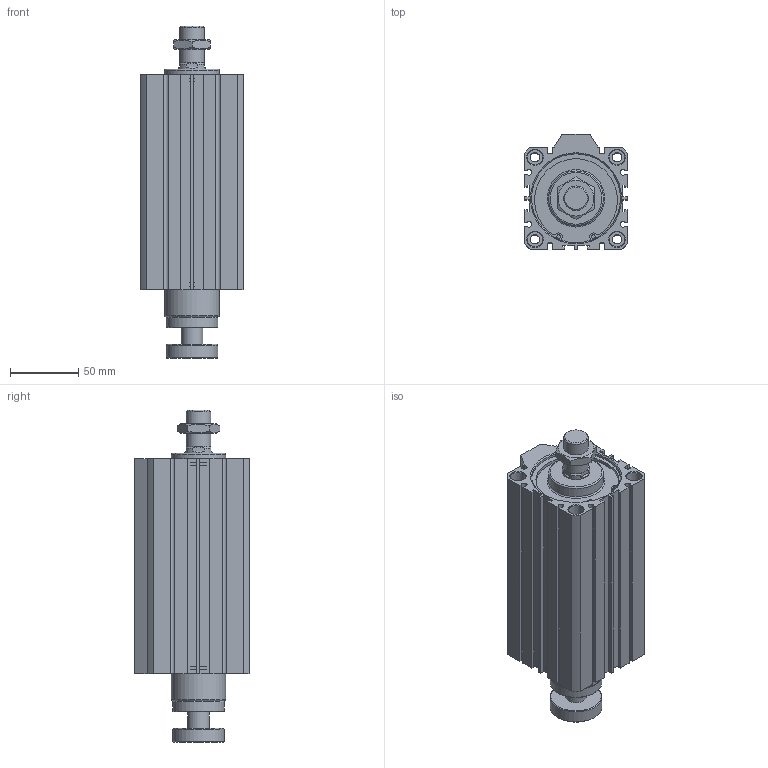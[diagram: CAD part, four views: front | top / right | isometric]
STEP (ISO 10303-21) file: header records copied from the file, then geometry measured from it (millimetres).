
FILE_DESCRIPTION((''),'2;1');
FILE_NAME('I:\3D電子目錄\氣缸\JDAR\JDAR-BS\JDAR63-BS\JDAR63x115-BS.stp','2007-05-05T14:40:37',('662F206'),(''),'Autodesk Inventor 11','Autodesk Inventor 11','');
FILE_SCHEMA(('AUTOMOTIVE_DESIGN { 1 0 10303 214 1 1 1 1 }'));
Length unit declared in the file: millimetre
Products named in the file (3): JDAR63-BS; R 形環 65
Assembly tree (3 placements, depth 2):
  JDAR63-BS
    JDAR63-BS
    R 形環 65  x2
Bounding box: 75 x 84.5 x 242.8 mm (x, y, z)
Volume: 887479.6 mm3; surface area: 114354.2 mm2
Topology: 3 solids, 3 shells, 203 faces, 490 edges, 319 vertices
Faces by surface type: plane 118, cylinder 56, cone 25, bspline 2, torus 2
Full cylindrical faces by diameter (mm): 2.7 x4, 3 x2, 6.8 x4, 11 x8, 16 x1, 18 x2, 20 x1, 38 x2, 40 x2, 65 x4, 68 x2
Entity records: 5389 total; most frequent: CARTESIAN_POINT 1017, DIRECTION 902, ORIENTED_EDGE 798, EDGE_CURVE 399, AXIS2_PLACEMENT_3D 328, VERTEX_POINT 293, EDGE_LOOP 284, VECTOR 246
